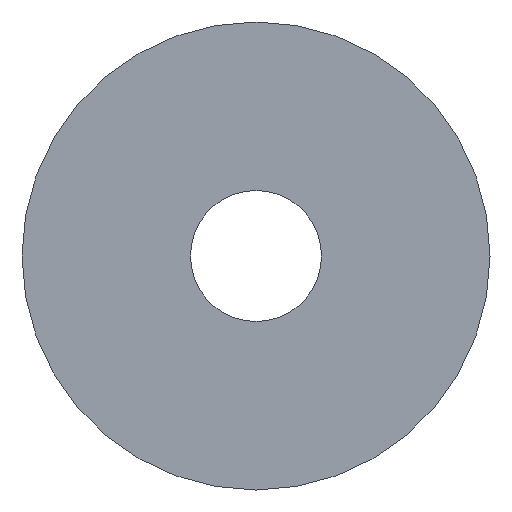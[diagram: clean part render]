
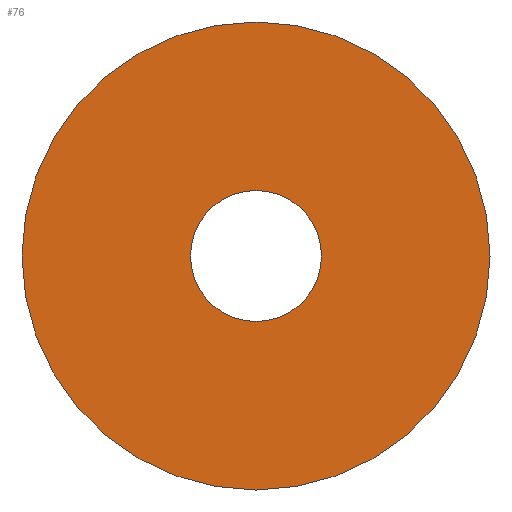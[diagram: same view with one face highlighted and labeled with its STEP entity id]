
A CAD part, left-side view. The second image highlights one B-rep face of the part: STEP entity #76.
In plain terms, the highlighted planar face has unit normal (-1, 0, 0).
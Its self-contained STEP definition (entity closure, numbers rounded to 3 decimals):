
#14 = VERTEX_POINT ( 'NONE', #113 ) ;
#16 = VERTEX_POINT ( 'NONE', #112 ) ;
#29 = VERTEX_POINT ( 'NONE', #137 ) ;
#45 = EDGE_CURVE ( 'NONE', #51, #29, #227, .T. ) ;
#51 = VERTEX_POINT ( 'NONE', #212 ) ;
#73 = EDGE_CURVE ( 'NONE', #14, #16, #192, .T. ) ;
#75 = EDGE_CURVE ( 'NONE', #16, #14, #188, .T. ) ;
#76 = ADVANCED_FACE ( 'NONE', ( #182, #181 ), #180, .F. ) ;
#77 = EDGE_LOOP ( 'NONE', ( #78, #81 ) ) ;
#78 = ORIENTED_EDGE ( 'NONE', *, *, #79, .T. ) ;
#79 = EDGE_CURVE ( 'NONE', #29, #51, #175, .T. ) ;
#81 = ORIENTED_EDGE ( 'NONE', *, *, #45, .T. ) ;
#82 = EDGE_LOOP ( 'NONE', ( #83, #84 ) ) ;
#83 = ORIENTED_EDGE ( 'NONE', *, *, #75, .F. ) ;
#84 = ORIENTED_EDGE ( 'NONE', *, *, #73, .F. ) ;
#112 = CARTESIAN_POINT ( 'NONE',  ( 0., 0., 2.5 ) ) ;
#113 = CARTESIAN_POINT ( 'NONE',  ( 0., 0., -2.5 ) ) ;
#137 = CARTESIAN_POINT ( 'NONE',  ( 0., 0., -0.7 ) ) ;
#171 = DIRECTION ( 'NONE',  ( 0., 0., -1. ) ) ;
#172 = DIRECTION ( 'NONE',  ( 1., 0., 0. ) ) ;
#173 = CARTESIAN_POINT ( 'NONE',  ( 0., 0., 0. ) ) ;
#174 = AXIS2_PLACEMENT_3D ( 'NONE', #173, #172, #171 ) ;
#175 = CIRCLE ( 'NONE', #174, 0.7 ) ;
#176 = DIRECTION ( 'NONE',  ( 0., 0., -1. ) ) ;
#177 = DIRECTION ( 'NONE',  ( 1., 0., 0. ) ) ;
#178 = CARTESIAN_POINT ( 'NONE',  ( 0., 0., 0. ) ) ;
#179 = AXIS2_PLACEMENT_3D ( 'NONE', #178, #177, #176 ) ;
#180 = PLANE ( 'NONE',  #179 ) ;
#181 = FACE_OUTER_BOUND ( 'NONE', #82, .T. ) ;
#182 = FACE_BOUND ( 'NONE', #77, .T. ) ;
#183 = DIRECTION ( 'NONE',  ( 0., 0., -1. ) ) ;
#184 = DIRECTION ( 'NONE',  ( 1., 0., 0. ) ) ;
#185 = CARTESIAN_POINT ( 'NONE',  ( 0., 0., 0. ) ) ;
#186 = AXIS2_PLACEMENT_3D ( 'NONE', #185, #184, #183 ) ;
#188 = CIRCLE ( 'NONE', #186, 2.5 ) ;
#189 = DIRECTION ( 'NONE',  ( 0., 0., -1. ) ) ;
#190 = DIRECTION ( 'NONE',  ( 1., 0., 0. ) ) ;
#191 = AXIS2_PLACEMENT_3D ( 'NONE', #196, #190, #189 ) ;
#192 = CIRCLE ( 'NONE', #191, 2.5 ) ;
#196 = CARTESIAN_POINT ( 'NONE',  ( 0., 0., 0. ) ) ;
#212 = CARTESIAN_POINT ( 'NONE',  ( 0., 0., 0.7 ) ) ;
#223 = DIRECTION ( 'NONE',  ( 0., 0., -1. ) ) ;
#224 = DIRECTION ( 'NONE',  ( 1., 0., 0. ) ) ;
#225 = CARTESIAN_POINT ( 'NONE',  ( 0., 0., 0. ) ) ;
#226 = AXIS2_PLACEMENT_3D ( 'NONE', #225, #224, #223 ) ;
#227 = CIRCLE ( 'NONE', #226, 0.7 ) ;
